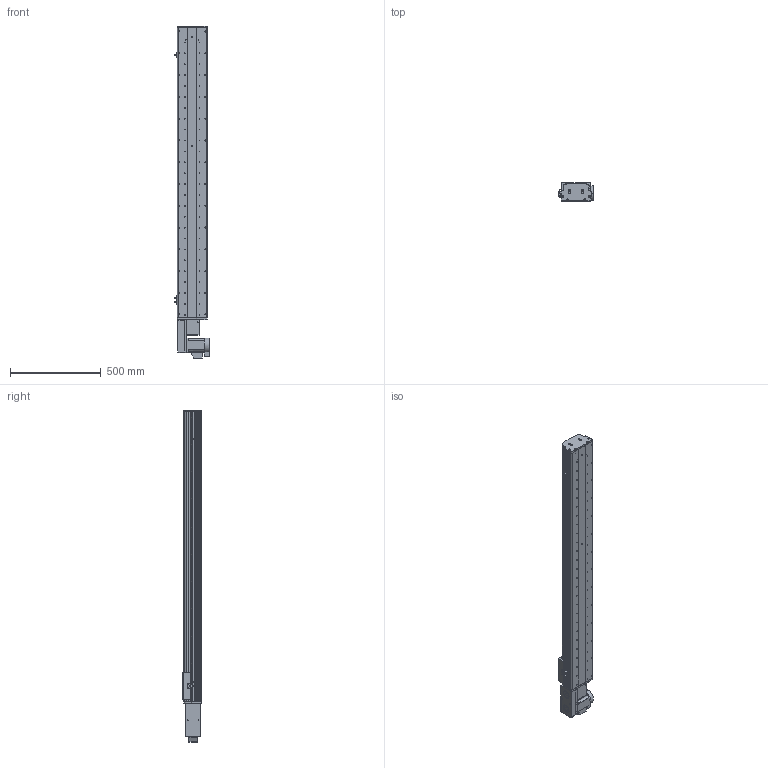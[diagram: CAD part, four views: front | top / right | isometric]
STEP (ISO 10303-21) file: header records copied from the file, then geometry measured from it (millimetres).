
FILE_DESCRIPTION (( 'STEP AP214' ), '1' );
FILE_NAME ('KSD165B-S1350-MLB-CM.STEP', '2017-10-16T06:30:59', ( '微软用户' ), ( '微软中国' ), 'SwSTEP 2.0', 'SolidWorks 2014', '' );
FILE_SCHEMA (( 'AUTOMOTIVE_DESIGN' ));
Length unit declared in the file: millimetre
Products named in the file (17): KSD165模组同步带底板-1350行程; 拸秶雄ん750W侜督萇儂; U倰嫖萇假蚾璃; U倰嫖萇EEㄜSX672; 覜茼え68遵圉猾敕; KSD165模组-同步带-防撞垫2; KSD165模组同步带-防撞垫1; KSD165耀郪-ヶ傷啣1-肮祭湍; KSD165模组-后端板1-同步带; KSD165模组-同步带滑动座-最新版; KSD165B-S1350-MLB-CM; HTPA26S5M250-A-H8 750W萇儂蚚; HTPA26S5M250-A-H8 400W萇儂蚚 ; 130宽模组马达安装板连板左右折同步带; 130宽模组保护罩上下左右折-同步带; 165宽马达安装板同步带左-改; KSD165模组-同步带防尘盖1-1350行程
Assembly tree (20 placements, depth 2):
  KSD165B-S1350-MLB-CM
    KSD165模组-同步带滑动座-最新版
    KSD165模组-后端板1-同步带
    KSD165耀郪-ヶ傷啣1-肮祭湍
    KSD165模组同步带-防撞垫1
    KSD165模组-同步带-防撞垫2
    覜茼え68遵圉猾敕
    U倰嫖萇EEㄜSX672  x3
    U倰嫖萇假蚾璃  x3
    拸秶雄ん750W侜督萇儂
    KSD165模组同步带底板-1350行程
    KSD165模组-同步带防尘盖1-1350行程
    165宽马达安装板同步带左-改
    130宽模组保护罩上下左右折-同步带
    130宽模组马达安装板连板左右折同步带
    HTPA26S5M250-A-H8 400W萇儂蚚 
    HTPA26S5M250-A-H8 750W萇儂蚚
Bounding box: 191.2 x 104 x 1828 mm (x, y, z)
Volume: 9494820.2 mm3; surface area: 2214234.2 mm2
Topology: 21 solids, 22 shells, 2033 faces, 5748 edges, 3756 vertices
Faces by surface type: cylinder 1325, plane 596, cone 112
Entity records: 66664 total; most frequent: CARTESIAN_POINT 13662, DIRECTION 10900, ORIENTED_EDGE 10156, EDGE_CURVE 5078, AXIS2_PLACEMENT_3D 4288, VERTEX_POINT 3348, CIRCLE 2452, LINE 2324
